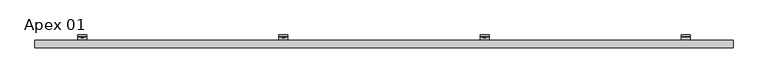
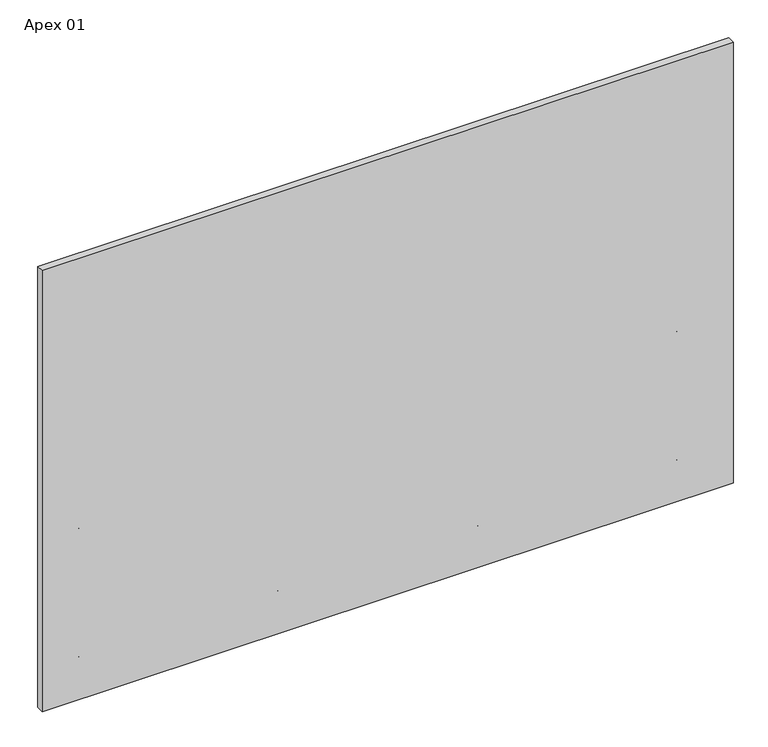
"""IFC4 building model written with IfcOpenShell, lengths in millimetres: plate geometry, Single-Panel-Perforated-Amico_Architectural : Apex 01."""

from ifc_helpers import new_model, si_unit, point, frame, frame_2d, origin, place, context, project, spatial, polyline, circle_curve, trimmed, segment, composite_curve, outline, extrude, source, transform, mapped, element, save
from ifc_brep_helpers import plane_surface, cylinder_surface, revolved_surface, advanced_brep


def apex_01_872dbe5e(model_context):
    return source(origin(), model_context, "Body", "SolidModel", [
        advanced_brep(
        [(1276.35, -47.625, 742.6471875), (1276.35, -51.2819443, 734.985155), (1276.35, -89.5163624, 708.2131273), (1276.35, -92.9330442, 711.6298091), (1276.35, -54.3526876, 738.6440656), (1276.35, -52.4002, 742.6472583), (1276.35, -52.4002, 776.8398726), (1276.35, -47.625, 776.8398726), (1314.45, -47.625, 742.6471875), (1314.45, -47.625, 776.8398726), (1314.45, -52.4002, 776.8398726), (1314.45, -52.4002, 742.6472583), (1314.45, -54.3526876, 738.6440656), (1314.45, -92.9330442, 711.6298091), (1314.45, -89.5163624, 708.2131273), (1314.45, -51.2819443, 734.985155), (1302.1411889, -52.4002, 762.7946564), (1302.1411889, -52.4002, 756.4446564), (1285.9133287, -52.4002, 756.4446564), (1285.9133287, -52.4002, 762.7946564), (1302.1411889, -47.625, 756.4446564), (1302.1411889, -47.625, 762.7946564), (1285.9133287, -47.625, 762.7946564), (1285.9133287, -47.625, 756.4446564)],
        [
            (0, 1, circle_curve(frame((1276.35, -57.4802202, 742.6471875), z_axis=(-1.0, 0.0, 0.0), x_axis=(0.0, -1.0, 0.0)), 9.8552202)),
            (1, 2),
            (2, 3),
            (3, 4),
            (4, 5, circle_curve(frame((1276.35, -57.4803246, 742.6472583), z_axis=(1.0, 0.0, 0.0), x_axis=(0.0, -1.0, 0.0)), 5.0801246)),
            (5, 6),
            (6, 7),
            (7, 0),
            (8, 9),
            (9, 10),
            (10, 11),
            (11, 12, circle_curve(frame((1314.45, -57.4803246, 742.6472583), z_axis=(-1.0, 0.0, 0.0), x_axis=(0.0, -1.0, 0.0)), 5.0801246)),
            (12, 13),
            (13, 14),
            (14, 15),
            (15, 8, circle_curve(frame((1314.45, -57.4802202, 742.6471875), z_axis=(1.0, 0.0, 0.0), x_axis=(0.0, -1.0, 0.0)), 9.8552202)),
            (4, 12),
            (11, 5),
            (10, 6),
            (16, 17, circle_curve(frame((1302.1411889, -52.4002, 759.6196564), z_axis=(0.0, 1.0, 0.0), x_axis=(0.0, 0.0, -1.0)), 3.175)),
            (17, 18),
            (18, 19, circle_curve(frame((1285.9133287, -52.4002, 759.6196564), z_axis=(0.0, 1.0, 0.0), x_axis=(0.0, 0.0, -1.0)), 3.175)),
            (19, 16),
            (9, 7),
            (8, 0),
            (20, 21, circle_curve(frame((1302.1411889, -47.625, 759.6196564), z_axis=(0.0, -1.0, 0.0), x_axis=(0.0, 0.0, -1.0)), 3.175)),
            (21, 22),
            (22, 23, circle_curve(frame((1285.9133287, -47.625, 759.6196564), z_axis=(0.0, -1.0, 0.0), x_axis=(0.0, 0.0, -1.0)), 3.175)),
            (23, 20),
            (15, 1),
            (20, 17),
            (16, 21),
            (19, 22),
            (18, 23),
            (14, 2),
            (13, 3),
        ],
        [
            plane_surface(frame((1276.35, -67.3354404, 742.6471875), z_axis=(-1.0, 0.0, 0.0), x_axis=(0.0, 0.0, 1.0))),
            plane_surface(frame((1314.45, -67.3354404, 742.6471875), z_axis=(1.0, 0.0, 0.0), x_axis=(0.0, 0.0, -1.0))),
            revolved_surface(polyline([(1314.45, -62.5604492, 742.6472583), (1276.35, -62.5604492, 742.6472583)]), (1314.45, -57.4803246, 742.6472583), (1.0, 0.0, 0.0)),
            plane_surface(frame((1276.35, -52.4002, 742.6472583), z_axis=(0.0, -1.0, 0.0), x_axis=(1.0, 0.0, 0.0))),
            plane_surface(frame((1276.35, -52.4002, 776.8398726), z_axis=(0.0, 0.0, 1.0), x_axis=(1.0, 0.0, 0.0))),
            plane_surface(frame((1276.35, -47.625, 776.8398726), z_axis=(0.0, 1.0, 6.99569853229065e-12), x_axis=(1.0, 0.0, 0.0))),
            cylinder_surface(frame((1314.45, -57.4802202, 742.6471875), z_axis=(-1.0, 0.0, 0.0), x_axis=(0.0, -1.0, 0.0)), 9.8552202),
            revolved_surface(polyline([(1302.1411889, -52.4002, 756.4446564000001), (1302.1411889, -47.625, 756.4446564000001)]), (1302.1411889, -25.6669948, 759.6196564), (0.0, -1.0, 0.0)),
            plane_surface(frame((1302.1411889, -86.677982, 762.7946564), z_axis=(0.0, 0.0, -1.0), x_axis=(0.0, 1.0, 0.0))),
            revolved_surface(polyline([(1285.9133287, -52.4002, 756.4446564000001), (1285.9133287, -47.625, 756.4446564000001)]), (1285.9133287, -25.6669948, 759.6196564), (0.0, -1.0, 0.0)),
            plane_surface(frame((1285.9133287, -86.677982, 756.4446564), z_axis=(-2.7237733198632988e-11, 0.0, 1.0), x_axis=(0.0, 1.0, 0.0))),
            plane_surface(frame((1276.35, -51.2819443, 734.985155), z_axis=(0.0, 0.5735764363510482, -0.8191520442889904), x_axis=(1.0, 0.0, 0.0))),
            plane_surface(frame((1276.35, -89.5163624, 708.2131273), z_axis=(0.0, -0.7071067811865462, -0.7071067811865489), x_axis=(1.0, 0.0, 0.0))),
            plane_surface(frame((1276.35, -92.9330442, 711.6298091), z_axis=(0.0, -0.5735764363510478, 0.8191520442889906), x_axis=(1.0, 0.0, 0.0))),
        ],
        [
            (0, [[1, 2, 3, 4, 5, 6, 7, 8]]),
            (1, [[9, 10, 11, 12, 13, 14, 15, 16]]),
            (2, [[-5, 17, -12, 18]]),
            (3, [[-6, -18, -11, 19], [20, 21, 22, 23]]),
            (4, [[-7, -19, -10, 24]]),
            (5, [[-8, -24, -9, 25], [26, 27, 28, 29]]),
            (6, [[-1, -25, -16, 30]]),
            (7, [[31, -20, 32, -26]]),
            (8, [[-32, -23, 33, -27]]),
            (9, [[-33, -22, 34, -28]]),
            (10, [[-31, -29, -34, -21]]),
            (11, [[-2, -30, -15, 35]]),
            (12, [[-3, -35, -14, 36]]),
            (13, [[-4, -36, -13, -17]]),
        ],
    ),
        extrude(outline(polyline([(759.7964995, 426.7820034), (755.450787, 429.2910017), (755.450787, 434.3089983), (759.7964995, 436.8179966), (764.1422121, 434.3089983), (764.1422121, 429.2910017), (759.7964995, 426.7820034)])), frame((0.0, -58.7607779, 0.0), z_axis=(0.0, 1.0, 0.0), x_axis=(0.0, 0.0, 1.0)), (0.0, 0.0, 1.0), 11.1357779),
        extrude(outline(composite_curve([segment(trimmed(circle_curve(frame_2d((759.8898065, 431.8)), 6.35), [point((759.8898065, 438.15))], [point((759.8898065, 425.45))], False, "CARTESIAN"), True, "CONTINUOUS"), segment(trimmed(circle_curve(frame_2d((759.8898065, 431.8)), 6.35), [point((759.8898065, 425.45))], [point((759.8898065, 438.15))], False, "CARTESIAN"), True, "CONTINUOUS")], self_intersect=False)), frame((0.0, -57.0817743, 0.0), z_axis=(0.0, 1.0, 0.0), x_axis=(0.0, 0.0, 1.0)), (0.0, 0.0, 1.0), 9.4567743),
        advanced_brep(
        [(412.75, -47.625, 742.6471875), (412.75, -51.2819443, 734.985155), (412.75, -89.5163624, 708.2131273), (412.75, -92.9330442, 711.6298091), (412.75, -54.3526876, 738.6440656), (412.75, -52.4002, 742.6472583), (412.75, -52.4002, 776.8398726), (412.75, -47.625, 776.8398726), (450.85, -47.625, 742.6471875), (450.85, -47.625, 776.8398726), (450.85, -52.4002, 776.8398726), (450.85, -52.4002, 742.6472583), (450.85, -54.3526876, 738.6440656), (450.85, -92.9330442, 711.6298091), (450.85, -89.5163624, 708.2131273), (450.85, -51.2819443, 734.985155), (438.5411889, -52.4002, 762.7946564), (438.5411889, -52.4002, 756.4446564), (422.3133287, -52.4002, 756.4446564), (422.3133287, -52.4002, 762.7946564), (438.5411889, -47.625, 756.4446564), (438.5411889, -47.625, 762.7946564), (422.3133287, -47.625, 762.7946564), (422.3133287, -47.625, 756.4446564)],
        [
            (0, 1, circle_curve(frame((412.75, -57.4802202, 742.6471875), z_axis=(-1.0, 0.0, 0.0), x_axis=(0.0, -1.0, 0.0)), 9.8552202)),
            (1, 2),
            (2, 3),
            (3, 4),
            (4, 5, circle_curve(frame((412.75, -57.4803246, 742.6472583), z_axis=(1.0, 0.0, 0.0), x_axis=(0.0, -1.0, 0.0)), 5.0801246)),
            (5, 6),
            (6, 7),
            (7, 0),
            (8, 9),
            (9, 10),
            (10, 11),
            (11, 12, circle_curve(frame((450.85, -57.4803246, 742.6472583), z_axis=(-1.0, 0.0, 0.0), x_axis=(0.0, -1.0, 0.0)), 5.0801246)),
            (12, 13),
            (13, 14),
            (14, 15),
            (15, 8, circle_curve(frame((450.85, -57.4802202, 742.6471875), z_axis=(1.0, 0.0, 0.0), x_axis=(0.0, -1.0, 0.0)), 9.8552202)),
            (4, 12),
            (11, 5),
            (10, 6),
            (16, 17, circle_curve(frame((438.5411889, -52.4002, 759.6196564), z_axis=(0.0, 1.0, 0.0), x_axis=(0.0, 0.0, -1.0)), 3.175)),
            (17, 18),
            (18, 19, circle_curve(frame((422.3133287, -52.4002, 759.6196564), z_axis=(0.0, 1.0, 0.0), x_axis=(0.0, 0.0, -1.0)), 3.175)),
            (19, 16),
            (9, 7),
            (8, 0),
            (20, 21, circle_curve(frame((438.5411889, -47.625, 759.6196564), z_axis=(0.0, -1.0, 0.0), x_axis=(0.0, 0.0, -1.0)), 3.175)),
            (21, 22),
            (22, 23, circle_curve(frame((422.3133287, -47.625, 759.6196564), z_axis=(0.0, -1.0, 0.0), x_axis=(0.0, 0.0, -1.0)), 3.175)),
            (23, 20),
            (15, 1),
            (20, 17),
            (16, 21),
            (19, 22),
            (18, 23),
            (14, 2),
            (13, 3),
        ],
        [
            plane_surface(frame((412.75, -67.3354404, 742.6471875), z_axis=(-1.0, 0.0, 0.0), x_axis=(0.0, 0.0, 1.0))),
            plane_surface(frame((450.85, -67.3354404, 742.6471875), z_axis=(1.0, 0.0, 0.0), x_axis=(0.0, 0.0, -1.0))),
            revolved_surface(polyline([(450.85, -62.5604492, 742.6472583), (412.75, -62.5604492, 742.6472583)]), (450.85, -57.4803246, 742.6472583), (1.0, 0.0, 0.0)),
            plane_surface(frame((412.75, -52.4002, 742.6472583), z_axis=(0.0, -1.0, 0.0), x_axis=(1.0, 0.0, 0.0))),
            plane_surface(frame((412.75, -52.4002, 776.8398726), z_axis=(0.0, 0.0, 1.0), x_axis=(1.0, 0.0, 0.0))),
            plane_surface(frame((412.75, -47.625, 776.8398726), z_axis=(0.0, 1.0, 6.99569853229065e-12), x_axis=(1.0, 0.0, 0.0))),
            cylinder_surface(frame((450.85, -57.4802202, 742.6471875), z_axis=(-1.0, 0.0, 0.0), x_axis=(0.0, -1.0, 0.0)), 9.8552202),
            revolved_surface(polyline([(438.5411889, -52.4002, 756.4446564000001), (438.5411889, -47.625, 756.4446564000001)]), (438.5411889, -25.6669948, 759.6196564), (0.0, -1.0, 0.0)),
            plane_surface(frame((438.5411889, -86.677982, 762.7946564), z_axis=(0.0, 0.0, -1.0), x_axis=(0.0, 1.0, 0.0))),
            revolved_surface(polyline([(422.3133287, -52.4002, 756.4446564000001), (422.3133287, -47.625, 756.4446564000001)]), (422.3133287, -25.6669948, 759.6196564), (0.0, -1.0, 0.0)),
            plane_surface(frame((422.3133287, -86.677982, 756.4446564), z_axis=(-2.7237733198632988e-11, 0.0, 1.0), x_axis=(0.0, 1.0, 0.0))),
            plane_surface(frame((412.75, -51.2819443, 734.985155), z_axis=(0.0, 0.5735764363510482, -0.8191520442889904), x_axis=(1.0, 0.0, 0.0))),
            plane_surface(frame((412.75, -89.5163624, 708.2131273), z_axis=(0.0, -0.7071067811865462, -0.7071067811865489), x_axis=(1.0, 0.0, 0.0))),
            plane_surface(frame((412.75, -92.9330442, 711.6298091), z_axis=(0.0, -0.5735764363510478, 0.8191520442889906), x_axis=(1.0, 0.0, 0.0))),
        ],
        [
            (0, [[1, 2, 3, 4, 5, 6, 7, 8]]),
            (1, [[9, 10, 11, 12, 13, 14, 15, 16]]),
            (2, [[-5, 17, -12, 18]]),
            (3, [[-6, -18, -11, 19], [20, 21, 22, 23]]),
            (4, [[-7, -19, -10, 24]]),
            (5, [[-8, -24, -9, 25], [26, 27, 28, 29]]),
            (6, [[-1, -25, -16, 30]]),
            (7, [[31, -20, 32, -26]]),
            (8, [[-32, -23, 33, -27]]),
            (9, [[-33, -22, 34, -28]]),
            (10, [[-31, -29, -34, -21]]),
            (11, [[-2, -30, -15, 35]]),
            (12, [[-3, -35, -14, 36]]),
            (13, [[-4, -36, -13, -17]]),
        ],
    ),
        extrude(outline(polyline([(759.7964995, -436.8179966), (755.450787, -434.3089983), (755.450787, -429.2910017), (759.7964995, -426.7820034), (764.1422121, -429.2910017), (764.1422121, -434.3089983), (759.7964995, -436.8179966)])), frame((0.0, -58.7607779, 0.0), z_axis=(0.0, 1.0, 0.0), x_axis=(0.0, 0.0, 1.0)), (0.0, 0.0, 1.0), 11.1357779),
        extrude(outline(composite_curve([segment(trimmed(circle_curve(frame_2d((759.8898065, -431.8)), 6.35), [point((759.8898065, -425.45))], [point((759.8898065, -438.15))], False, "CARTESIAN"), True, "CONTINUOUS"), segment(trimmed(circle_curve(frame_2d((759.8898065, -431.8)), 6.35), [point((759.8898065, -438.15))], [point((759.8898065, -425.45))], False, "CARTESIAN"), True, "CONTINUOUS")], self_intersect=False)), frame((0.0, -57.0817743, 0.0), z_axis=(0.0, 1.0, 0.0), x_axis=(0.0, 0.0, 1.0)), (0.0, 0.0, 1.0), 9.4567743),
        advanced_brep(
        [(-450.85, -47.625, 742.6471875), (-450.85, -51.2819443, 734.985155), (-450.85, -89.5163624, 708.2131273), (-450.85, -92.9330442, 711.6298091), (-450.85, -54.3526876, 738.6440656), (-450.85, -52.4002, 742.6472583), (-450.85, -52.4002, 776.8398726), (-450.85, -47.625, 776.8398726), (-412.75, -47.625, 742.6471875), (-412.75, -47.625, 776.8398726), (-412.75, -52.4002, 776.8398726), (-412.75, -52.4002, 742.6472583), (-412.75, -54.3526876, 738.6440656), (-412.75, -92.9330442, 711.6298091), (-412.75, -89.5163624, 708.2131273), (-412.75, -51.2819443, 734.985155), (-425.0588111, -52.4002, 762.7946564), (-425.0588111, -52.4002, 756.4446564), (-441.2866713, -52.4002, 756.4446564), (-441.2866713, -52.4002, 762.7946564), (-425.0588111, -47.625, 756.4446564), (-425.0588111, -47.625, 762.7946564), (-441.2866713, -47.625, 762.7946564), (-441.2866713, -47.625, 756.4446564)],
        [
            (0, 1, circle_curve(frame((-450.85, -57.4802202, 742.6471875), z_axis=(-1.0, 0.0, 0.0), x_axis=(0.0, -1.0, 0.0)), 9.8552202)),
            (1, 2),
            (2, 3),
            (3, 4),
            (4, 5, circle_curve(frame((-450.85, -57.4803246, 742.6472583), z_axis=(1.0, 0.0, 0.0), x_axis=(0.0, -1.0, 0.0)), 5.0801246)),
            (5, 6),
            (6, 7),
            (7, 0),
            (8, 9),
            (9, 10),
            (10, 11),
            (11, 12, circle_curve(frame((-412.75, -57.4803246, 742.6472583), z_axis=(-1.0, 0.0, 0.0), x_axis=(0.0, -1.0, 0.0)), 5.0801246)),
            (12, 13),
            (13, 14),
            (14, 15),
            (15, 8, circle_curve(frame((-412.75, -57.4802202, 742.6471875), z_axis=(1.0, 0.0, 0.0), x_axis=(0.0, -1.0, 0.0)), 9.8552202)),
            (4, 12),
            (11, 5),
            (10, 6),
            (16, 17, circle_curve(frame((-425.0588111, -52.4002, 759.6196564), z_axis=(0.0, 1.0, 0.0), x_axis=(0.0, 0.0, -1.0)), 3.175)),
            (17, 18),
            (18, 19, circle_curve(frame((-441.2866713, -52.4002, 759.6196564), z_axis=(0.0, 1.0, 0.0), x_axis=(0.0, 0.0, -1.0)), 3.175)),
            (19, 16),
            (9, 7),
            (8, 0),
            (20, 21, circle_curve(frame((-425.0588111, -47.625, 759.6196564), z_axis=(0.0, -1.0, 0.0), x_axis=(0.0, 0.0, -1.0)), 3.175)),
            (21, 22),
            (22, 23, circle_curve(frame((-441.2866713, -47.625, 759.6196564), z_axis=(0.0, -1.0, 0.0), x_axis=(0.0, 0.0, -1.0)), 3.175)),
            (23, 20),
            (15, 1),
            (20, 17),
            (16, 21),
            (19, 22),
            (18, 23),
            (14, 2),
            (13, 3),
        ],
        [
            plane_surface(frame((-450.85, -67.3354404, 742.6471875), z_axis=(-1.0, 0.0, 0.0), x_axis=(0.0, 0.0, 1.0))),
            plane_surface(frame((-412.75, -67.3354404, 742.6471875), z_axis=(1.0, 0.0, 0.0), x_axis=(0.0, 0.0, -1.0))),
            revolved_surface(polyline([(-412.75, -62.5604492, 742.6472583), (-450.85, -62.5604492, 742.6472583)]), (-412.75, -57.4803246, 742.6472583), (1.0, 0.0, 0.0)),
            plane_surface(frame((-450.85, -52.4002, 742.6472583), z_axis=(0.0, -1.0, 0.0), x_axis=(1.0, 0.0, 0.0))),
            plane_surface(frame((-450.85, -52.4002, 776.8398726), z_axis=(0.0, 0.0, 1.0), x_axis=(1.0, 0.0, 0.0))),
            plane_surface(frame((-450.85, -47.625, 776.8398726), z_axis=(0.0, 1.0, 6.99569853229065e-12), x_axis=(1.0, 0.0, 0.0))),
            cylinder_surface(frame((-412.75, -57.4802202, 742.6471875), z_axis=(-1.0, 0.0, 0.0), x_axis=(0.0, -1.0, 0.0)), 9.8552202),
            revolved_surface(polyline([(-425.0588111, -52.4002, 756.4446564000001), (-425.0588111, -47.625, 756.4446564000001)]), (-425.0588111, -25.6669948, 759.6196564), (0.0, -1.0, 0.0)),
            plane_surface(frame((-425.0588111, -86.677982, 762.7946564), z_axis=(0.0, 0.0, -1.0), x_axis=(0.0, 1.0, 0.0))),
            revolved_surface(polyline([(-441.2866713, -52.4002, 756.4446564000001), (-441.2866713, -47.625, 756.4446564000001)]), (-441.2866713, -25.6669948, 759.6196564), (0.0, -1.0, 0.0)),
            plane_surface(frame((-441.2866713, -86.677982, 756.4446564), z_axis=(-2.7237733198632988e-11, 0.0, 1.0), x_axis=(0.0, 1.0, 0.0))),
            plane_surface(frame((-450.85, -51.2819443, 734.985155), z_axis=(0.0, 0.5735764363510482, -0.8191520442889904), x_axis=(1.0, 0.0, 0.0))),
            plane_surface(frame((-450.85, -89.5163624, 708.2131273), z_axis=(0.0, -0.7071067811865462, -0.7071067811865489), x_axis=(1.0, 0.0, 0.0))),
            plane_surface(frame((-450.85, -92.9330442, 711.6298091), z_axis=(0.0, -0.5735764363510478, 0.8191520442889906), x_axis=(1.0, 0.0, 0.0))),
        ],
        [
            (0, [[1, 2, 3, 4, 5, 6, 7, 8]]),
            (1, [[9, 10, 11, 12, 13, 14, 15, 16]]),
            (2, [[-5, 17, -12, 18]]),
            (3, [[-6, -18, -11, 19], [20, 21, 22, 23]]),
            (4, [[-7, -19, -10, 24]]),
            (5, [[-8, -24, -9, 25], [26, 27, 28, 29]]),
            (6, [[-1, -25, -16, 30]]),
            (7, [[31, -20, 32, -26]]),
            (8, [[-32, -23, 33, -27]]),
            (9, [[-33, -22, 34, -28]]),
            (10, [[-31, -29, -34, -21]]),
            (11, [[-2, -30, -15, 35]]),
            (12, [[-3, -35, -14, 36]]),
            (13, [[-4, -36, -13, -17]]),
        ],
    ),
        extrude(outline(polyline([(759.7964995, -1300.4179966), (755.450787, -1297.9089983), (755.450787, -1292.8910017), (759.7964995, -1290.3820034), (764.1422121, -1292.8910017), (764.1422121, -1297.9089983), (759.7964995, -1300.4179966)])), frame((0.0, -58.7607779, 0.0), z_axis=(0.0, 1.0, 0.0), x_axis=(0.0, 0.0, 1.0)), (0.0, 0.0, 1.0), 11.1357779),
        extrude(outline(composite_curve([segment(trimmed(circle_curve(frame_2d((759.8898065, -1295.4)), 6.35), [point((759.8898065, -1289.05))], [point((759.8898065, -1301.75))], False, "CARTESIAN"), True, "CONTINUOUS"), segment(trimmed(circle_curve(frame_2d((759.8898065, -1295.4)), 6.35), [point((759.8898065, -1301.75))], [point((759.8898065, -1289.05))], False, "CARTESIAN"), True, "CONTINUOUS")], self_intersect=False)), frame((0.0, -57.0817743, 0.0), z_axis=(0.0, 1.0, 0.0), x_axis=(0.0, 0.0, 1.0)), (0.0, 0.0, 1.0), 9.4567743),
        advanced_brep(
        [(-1314.45, -47.625, 742.6471875), (-1314.45, -51.2819443, 734.985155), (-1314.45, -89.5163624, 708.2131273), (-1314.45, -92.9330442, 711.6298091), (-1314.45, -54.3526876, 738.6440656), (-1314.45, -52.4002, 742.6472583), (-1314.45, -52.4002, 776.8398726), (-1314.45, -47.625, 776.8398726), (-1276.35, -47.625, 742.6471875), (-1276.35, -47.625, 776.8398726), (-1276.35, -52.4002, 776.8398726), (-1276.35, -52.4002, 742.6472583), (-1276.35, -54.3526876, 738.6440656), (-1276.35, -92.9330442, 711.6298091), (-1276.35, -89.5163624, 708.2131273), (-1276.35, -51.2819443, 734.985155), (-1288.6588111, -52.4002, 762.7946564), (-1288.6588111, -52.4002, 756.4446564), (-1304.8866713, -52.4002, 756.4446564), (-1304.8866713, -52.4002, 762.7946564), (-1288.6588111, -47.625, 756.4446564), (-1288.6588111, -47.625, 762.7946564), (-1304.8866713, -47.625, 762.7946564), (-1304.8866713, -47.625, 756.4446564)],
        [
            (0, 1, circle_curve(frame((-1314.45, -57.4802202, 742.6471875), z_axis=(-1.0, 0.0, 0.0), x_axis=(0.0, -1.0, 0.0)), 9.8552202)),
            (1, 2),
            (2, 3),
            (3, 4),
            (4, 5, circle_curve(frame((-1314.45, -57.4803246, 742.6472583), z_axis=(1.0, 0.0, 0.0), x_axis=(0.0, -1.0, 0.0)), 5.0801246)),
            (5, 6),
            (6, 7),
            (7, 0),
            (8, 9),
            (9, 10),
            (10, 11),
            (11, 12, circle_curve(frame((-1276.35, -57.4803246, 742.6472583), z_axis=(-1.0, 0.0, 0.0), x_axis=(0.0, -1.0, 0.0)), 5.0801246)),
            (12, 13),
            (13, 14),
            (14, 15),
            (15, 8, circle_curve(frame((-1276.35, -57.4802202, 742.6471875), z_axis=(1.0, 0.0, 0.0), x_axis=(0.0, -1.0, 0.0)), 9.8552202)),
            (4, 12),
            (11, 5),
            (10, 6),
            (16, 17, circle_curve(frame((-1288.6588111, -52.4002, 759.6196564), z_axis=(0.0, 1.0, 0.0), x_axis=(0.0, 0.0, -1.0)), 3.175)),
            (17, 18),
            (18, 19, circle_curve(frame((-1304.8866713, -52.4002, 759.6196564), z_axis=(0.0, 1.0, 0.0), x_axis=(0.0, 0.0, -1.0)), 3.175)),
            (19, 16),
            (9, 7),
            (8, 0),
            (20, 21, circle_curve(frame((-1288.6588111, -47.625, 759.6196564), z_axis=(0.0, -1.0, 0.0), x_axis=(0.0, 0.0, -1.0)), 3.175)),
            (21, 22),
            (22, 23, circle_curve(frame((-1304.8866713, -47.625, 759.6196564), z_axis=(0.0, -1.0, 0.0), x_axis=(0.0, 0.0, -1.0)), 3.175)),
            (23, 20),
            (15, 1),
            (20, 17),
            (16, 21),
            (19, 22),
            (18, 23),
            (14, 2),
            (13, 3),
        ],
        [
            plane_surface(frame((-1314.45, -67.3354404, 742.6471875), z_axis=(-1.0, 0.0, 0.0), x_axis=(0.0, 0.0, 1.0))),
            plane_surface(frame((-1276.35, -67.3354404, 742.6471875), z_axis=(1.0, 0.0, 0.0), x_axis=(0.0, 0.0, -1.0))),
            revolved_surface(polyline([(-1276.35, -62.5604492, 742.6472583), (-1314.45, -62.5604492, 742.6472583)]), (-1276.35, -57.4803246, 742.6472583), (1.0, 0.0, 0.0)),
            plane_surface(frame((-1314.45, -52.4002, 742.6472583), z_axis=(0.0, -1.0, 0.0), x_axis=(1.0, 0.0, 0.0))),
            plane_surface(frame((-1314.45, -52.4002, 776.8398726), z_axis=(0.0, 0.0, 1.0), x_axis=(1.0, 0.0, 0.0))),
            plane_surface(frame((-1314.45, -47.625, 776.8398726), z_axis=(0.0, 1.0, 6.99569853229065e-12), x_axis=(1.0, 0.0, 0.0))),
            cylinder_surface(frame((-1276.35, -57.4802202, 742.6471875), z_axis=(-1.0, 0.0, 0.0), x_axis=(0.0, -1.0, 0.0)), 9.8552202),
            revolved_surface(polyline([(-1288.6588111, -52.4002, 756.4446564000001), (-1288.6588111, -47.625, 756.4446564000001)]), (-1288.6588111, -25.6669948, 759.6196564), (0.0, -1.0, 0.0)),
            plane_surface(frame((-1288.6588111, -86.677982, 762.7946564), z_axis=(0.0, 0.0, -1.0), x_axis=(0.0, 1.0, 0.0))),
            revolved_surface(polyline([(-1304.8866713, -52.4002, 756.4446564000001), (-1304.8866713, -47.625, 756.4446564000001)]), (-1304.8866713, -25.6669948, 759.6196564), (0.0, -1.0, 0.0)),
            plane_surface(frame((-1304.8866713, -86.677982, 756.4446564), z_axis=(-2.7237733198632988e-11, 0.0, 1.0), x_axis=(0.0, 1.0, 0.0))),
            plane_surface(frame((-1314.45, -51.2819443, 734.985155), z_axis=(0.0, 0.5735764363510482, -0.8191520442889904), x_axis=(1.0, 0.0, 0.0))),
            plane_surface(frame((-1314.45, -89.5163624, 708.2131273), z_axis=(0.0, -0.7071067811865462, -0.7071067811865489), x_axis=(1.0, 0.0, 0.0))),
            plane_surface(frame((-1314.45, -92.9330442, 711.6298091), z_axis=(0.0, -0.5735764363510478, 0.8191520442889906), x_axis=(1.0, 0.0, 0.0))),
        ],
        [
            (0, [[1, 2, 3, 4, 5, 6, 7, 8]]),
            (1, [[9, 10, 11, 12, 13, 14, 15, 16]]),
            (2, [[-5, 17, -12, 18]]),
            (3, [[-6, -18, -11, 19], [20, 21, 22, 23]]),
            (4, [[-7, -19, -10, 24]]),
            (5, [[-8, -24, -9, 25], [26, 27, 28, 29]]),
            (6, [[-1, -25, -16, 30]]),
            (7, [[31, -20, 32, -26]]),
            (8, [[-32, -23, 33, -27]]),
            (9, [[-33, -22, 34, -28]]),
            (10, [[-31, -29, -34, -21]]),
            (11, [[-2, -30, -15, 35]]),
            (12, [[-3, -35, -14, 36]]),
            (13, [[-4, -36, -13, -17]]),
        ],
    ),
        extrude(outline(polyline([(169.8795323, 1290.3820034), (165.5338197, 1292.8910017), (165.5338197, 1297.9089983), (169.8795323, 1300.4179966), (174.2252448, 1297.9089983), (174.2252448, 1292.8910017), (169.8795323, 1290.3820034)])), frame((0.0, -58.7607779, 0.0), z_axis=(0.0, 1.0, 0.0), x_axis=(0.0, 0.0, 1.0)), (0.0, 0.0, 1.0), 11.1357779),
        extrude(outline(composite_curve([segment(trimmed(circle_curve(frame_2d((169.9728392, 1295.4)), 6.35), [point((169.9728392, 1301.75))], [point((169.9728392, 1289.05))], False, "CARTESIAN"), True, "CONTINUOUS"), segment(trimmed(circle_curve(frame_2d((169.9728392, 1295.4)), 6.35), [point((169.9728392, 1289.05))], [point((169.9728392, 1301.75))], False, "CARTESIAN"), True, "CONTINUOUS")], self_intersect=False)), frame((0.0, -57.0817743, 0.0), z_axis=(0.0, 1.0, 0.0), x_axis=(0.0, 0.0, 1.0)), (0.0, 0.0, 1.0), 9.4567743),
        advanced_brep(
        [(1276.35, -47.625, 152.7302202), (1276.35, -51.2819443, 145.0681877), (1276.35, -89.5163624, 118.29616), (1276.35, -92.9330442, 121.7128418), (1276.35, -54.3526876, 148.7270983), (1276.35, -52.4002, 152.7302911), (1276.35, -52.4002, 186.9229053), (1276.35, -47.625, 186.9229053), (1314.45, -47.625, 152.7302202), (1314.45, -47.625, 186.9229053), (1314.45, -52.4002, 186.9229053), (1314.45, -52.4002, 152.7302911), (1314.45, -54.3526876, 148.7270983), (1314.45, -92.9330442, 121.7128418), (1314.45, -89.5163624, 118.29616), (1314.45, -51.2819443, 145.0681877), (1302.1411889, -52.4002, 172.8776891), (1302.1411889, -52.4002, 166.5276891), (1285.9133287, -52.4002, 166.5276891), (1285.9133287, -52.4002, 172.8776891), (1302.1411889, -47.625, 166.5276891), (1302.1411889, -47.625, 172.8776891), (1285.9133287, -47.625, 172.8776891), (1285.9133287, -47.625, 166.5276891)],
        [
            (0, 1, circle_curve(frame((1276.35, -57.4802202, 152.7302202), z_axis=(-1.0, 0.0, 0.0), x_axis=(0.0, -1.0, 0.0)), 9.8552202)),
            (1, 2),
            (2, 3),
            (3, 4),
            (4, 5, circle_curve(frame((1276.35, -57.4803246, 152.7302911), z_axis=(1.0, 0.0, 0.0), x_axis=(0.0, -1.0, 0.0)), 5.0801246)),
            (5, 6),
            (6, 7),
            (7, 0),
            (8, 9),
            (9, 10),
            (10, 11),
            (11, 12, circle_curve(frame((1314.45, -57.4803246, 152.7302911), z_axis=(-1.0, 0.0, 0.0), x_axis=(0.0, -1.0, 0.0)), 5.0801246)),
            (12, 13),
            (13, 14),
            (14, 15),
            (15, 8, circle_curve(frame((1314.45, -57.4802202, 152.7302202), z_axis=(1.0, 0.0, 0.0), x_axis=(0.0, -1.0, 0.0)), 9.8552202)),
            (4, 12),
            (11, 5),
            (10, 6),
            (16, 17, circle_curve(frame((1302.1411889, -52.4002, 169.7026891), z_axis=(0.0, 1.0, 0.0), x_axis=(0.0, 0.0, -1.0)), 3.175)),
            (17, 18),
            (18, 19, circle_curve(frame((1285.9133287, -52.4002, 169.7026891), z_axis=(0.0, 1.0, 0.0), x_axis=(0.0, 0.0, -1.0)), 3.175)),
            (19, 16),
            (9, 7),
            (8, 0),
            (20, 21, circle_curve(frame((1302.1411889, -47.625, 169.7026891), z_axis=(0.0, -1.0, 0.0), x_axis=(0.0, 0.0, -1.0)), 3.175)),
            (21, 22),
            (22, 23, circle_curve(frame((1285.9133287, -47.625, 169.7026891), z_axis=(0.0, -1.0, 0.0), x_axis=(0.0, 0.0, -1.0)), 3.175)),
            (23, 20),
            (15, 1),
            (20, 17),
            (16, 21),
            (19, 22),
            (18, 23),
            (14, 2),
            (13, 3),
        ],
        [
            plane_surface(frame((1276.35, -67.3354404, 152.7302202), z_axis=(-1.0, 0.0, 0.0), x_axis=(0.0, 0.0, 1.0))),
            plane_surface(frame((1314.45, -67.3354404, 152.7302202), z_axis=(1.0, 0.0, 0.0), x_axis=(0.0, 0.0, -1.0))),
            revolved_surface(polyline([(1314.45, -62.5604492, 152.7302911), (1276.35, -62.5604492, 152.7302911)]), (1314.45, -57.4803246, 152.7302911), (1.0, 0.0, 0.0)),
            plane_surface(frame((1276.35, -52.4002, 152.7302911), z_axis=(0.0, -1.0, 0.0), x_axis=(1.0, 0.0, 0.0))),
            plane_surface(frame((1276.35, -52.4002, 186.9229053), z_axis=(0.0, 0.0, 1.0), x_axis=(1.0, 0.0, 0.0))),
            plane_surface(frame((1276.35, -47.625, 186.9229053), z_axis=(0.0, 1.0, 6.99569853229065e-12), x_axis=(1.0, 0.0, 0.0))),
            cylinder_surface(frame((1314.45, -57.4802202, 152.7302202), z_axis=(-1.0, 0.0, 0.0), x_axis=(0.0, -1.0, 0.0)), 9.8552202),
            revolved_surface(polyline([(1302.1411889, -52.4002, 166.52768909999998), (1302.1411889, -47.625, 166.52768909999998)]), (1302.1411889, -25.6669948, 169.7026891), (0.0, -1.0, 0.0)),
            plane_surface(frame((1302.1411889, -86.677982, 172.8776891), z_axis=(0.0, 0.0, -1.0), x_axis=(0.0, 1.0, 0.0))),
            revolved_surface(polyline([(1285.9133287, -52.4002, 166.52768909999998), (1285.9133287, -47.625, 166.52768909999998)]), (1285.9133287, -25.6669948, 169.7026891), (0.0, -1.0, 0.0)),
            plane_surface(frame((1285.9133287, -86.677982, 166.5276891), z_axis=(-2.723774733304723e-11, 0.0, 1.0), x_axis=(0.0, 1.0, 0.0))),
            plane_surface(frame((1276.35, -51.2819443, 145.0681877), z_axis=(0.0, 0.5735764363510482, -0.8191520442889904), x_axis=(1.0, 0.0, 0.0))),
            plane_surface(frame((1276.35, -89.5163624, 118.29616), z_axis=(0.0, -0.7071067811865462, -0.7071067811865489), x_axis=(1.0, 0.0, 0.0))),
            plane_surface(frame((1276.35, -92.9330442, 121.7128418), z_axis=(0.0, -0.5735764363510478, 0.8191520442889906), x_axis=(1.0, 0.0, 0.0))),
        ],
        [
            (0, [[1, 2, 3, 4, 5, 6, 7, 8]]),
            (1, [[9, 10, 11, 12, 13, 14, 15, 16]]),
            (2, [[-5, 17, -12, 18]]),
            (3, [[-6, -18, -11, 19], [20, 21, 22, 23]]),
            (4, [[-7, -19, -10, 24]]),
            (5, [[-8, -24, -9, 25], [26, 27, 28, 29]]),
            (6, [[-1, -25, -16, 30]]),
            (7, [[31, -20, 32, -26]]),
            (8, [[-32, -23, 33, -27]]),
            (9, [[-33, -22, 34, -28]]),
            (10, [[-31, -29, -34, -21]]),
            (11, [[-2, -30, -15, 35]]),
            (12, [[-3, -35, -14, 36]]),
            (13, [[-4, -36, -13, -17]]),
        ],
    ),
        extrude(outline(polyline([(169.8795323, 426.7820034), (165.5338197, 429.2910017), (165.5338197, 434.3089983), (169.8795323, 436.8179966), (174.2252448, 434.3089983), (174.2252448, 429.2910017), (169.8795323, 426.7820034)])), frame((0.0, -58.7607779, 0.0), z_axis=(0.0, 1.0, 0.0), x_axis=(0.0, 0.0, 1.0)), (0.0, 0.0, 1.0), 11.1357779),
        extrude(outline(composite_curve([segment(trimmed(circle_curve(frame_2d((169.9728392, 431.8)), 6.35), [point((169.9728392, 438.15))], [point((169.9728392, 425.45))], False, "CARTESIAN"), True, "CONTINUOUS"), segment(trimmed(circle_curve(frame_2d((169.9728392, 431.8)), 6.35), [point((169.9728392, 425.45))], [point((169.9728392, 438.15))], False, "CARTESIAN"), True, "CONTINUOUS")], self_intersect=False)), frame((0.0, -57.0817743, 0.0), z_axis=(0.0, 1.0, 0.0), x_axis=(0.0, 0.0, 1.0)), (0.0, 0.0, 1.0), 9.4567743),
        advanced_brep(
        [(412.75, -47.625, 152.7302202), (412.75, -51.2819443, 145.0681877), (412.75, -89.5163624, 118.29616), (412.75, -92.9330442, 121.7128418), (412.75, -54.3526876, 148.7270983), (412.75, -52.4002, 152.7302911), (412.75, -52.4002, 186.9229053), (412.75, -47.625, 186.9229053), (450.85, -47.625, 152.7302202), (450.85, -47.625, 186.9229053), (450.85, -52.4002, 186.9229053), (450.85, -52.4002, 152.7302911), (450.85, -54.3526876, 148.7270983), (450.85, -92.9330442, 121.7128418), (450.85, -89.5163624, 118.29616), (450.85, -51.2819443, 145.0681877), (438.5411889, -52.4002, 172.8776891), (438.5411889, -52.4002, 166.5276891), (422.3133287, -52.4002, 166.5276891), (422.3133287, -52.4002, 172.8776891), (438.5411889, -47.625, 166.5276891), (438.5411889, -47.625, 172.8776891), (422.3133287, -47.625, 172.8776891), (422.3133287, -47.625, 166.5276891)],
        [
            (0, 1, circle_curve(frame((412.75, -57.4802202, 152.7302202), z_axis=(-1.0, 0.0, 0.0), x_axis=(0.0, -1.0, 0.0)), 9.8552202)),
            (1, 2),
            (2, 3),
            (3, 4),
            (4, 5, circle_curve(frame((412.75, -57.4803246, 152.7302911), z_axis=(1.0, 0.0, 0.0), x_axis=(0.0, -1.0, 0.0)), 5.0801246)),
            (5, 6),
            (6, 7),
            (7, 0),
            (8, 9),
            (9, 10),
            (10, 11),
            (11, 12, circle_curve(frame((450.85, -57.4803246, 152.7302911), z_axis=(-1.0, 0.0, 0.0), x_axis=(0.0, -1.0, 0.0)), 5.0801246)),
            (12, 13),
            (13, 14),
            (14, 15),
            (15, 8, circle_curve(frame((450.85, -57.4802202, 152.7302202), z_axis=(1.0, 0.0, 0.0), x_axis=(0.0, -1.0, 0.0)), 9.8552202)),
            (4, 12),
            (11, 5),
            (10, 6),
            (16, 17, circle_curve(frame((438.5411889, -52.4002, 169.7026891), z_axis=(0.0, 1.0, 0.0), x_axis=(0.0, 0.0, -1.0)), 3.175)),
            (17, 18),
            (18, 19, circle_curve(frame((422.3133287, -52.4002, 169.7026891), z_axis=(0.0, 1.0, 0.0), x_axis=(0.0, 0.0, -1.0)), 3.175)),
            (19, 16),
            (9, 7),
            (8, 0),
            (20, 21, circle_curve(frame((438.5411889, -47.625, 169.7026891), z_axis=(0.0, -1.0, 0.0), x_axis=(0.0, 0.0, -1.0)), 3.175)),
            (21, 22),
            (22, 23, circle_curve(frame((422.3133287, -47.625, 169.7026891), z_axis=(0.0, -1.0, 0.0), x_axis=(0.0, 0.0, -1.0)), 3.175)),
            (23, 20),
            (15, 1),
            (20, 17),
            (16, 21),
            (19, 22),
            (18, 23),
            (14, 2),
            (13, 3),
        ],
        [
            plane_surface(frame((412.75, -67.3354404, 152.7302202), z_axis=(-1.0, 0.0, 0.0), x_axis=(0.0, 0.0, 1.0))),
            plane_surface(frame((450.85, -67.3354404, 152.7302202), z_axis=(1.0, 0.0, 0.0), x_axis=(0.0, 0.0, -1.0))),
            revolved_surface(polyline([(450.85, -62.5604492, 152.7302911), (412.75, -62.5604492, 152.7302911)]), (450.85, -57.4803246, 152.7302911), (1.0, 0.0, 0.0)),
            plane_surface(frame((412.75, -52.4002, 152.7302911), z_axis=(0.0, -1.0, 0.0), x_axis=(1.0, 0.0, 0.0))),
            plane_surface(frame((412.75, -52.4002, 186.9229053), z_axis=(0.0, 0.0, 1.0), x_axis=(1.0, 0.0, 0.0))),
            plane_surface(frame((412.75, -47.625, 186.9229053), z_axis=(0.0, 1.0, 6.99569853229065e-12), x_axis=(1.0, 0.0, 0.0))),
            cylinder_surface(frame((450.85, -57.4802202, 152.7302202), z_axis=(-1.0, 0.0, 0.0), x_axis=(0.0, -1.0, 0.0)), 9.8552202),
            revolved_surface(polyline([(438.5411889, -52.4002, 166.52768909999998), (438.5411889, -47.625, 166.52768909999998)]), (438.5411889, -25.6669948, 169.7026891), (0.0, -1.0, 0.0)),
            plane_surface(frame((438.5411889, -86.677982, 172.8776891), z_axis=(0.0, 0.0, -1.0), x_axis=(0.0, 1.0, 0.0))),
            revolved_surface(polyline([(422.3133287, -52.4002, 166.52768909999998), (422.3133287, -47.625, 166.52768909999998)]), (422.3133287, -25.6669948, 169.7026891), (0.0, -1.0, 0.0)),
            plane_surface(frame((422.3133287, -86.677982, 166.5276891), z_axis=(-2.723774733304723e-11, 0.0, 1.0), x_axis=(0.0, 1.0, 0.0))),
            plane_surface(frame((412.75, -51.2819443, 145.0681877), z_axis=(0.0, 0.5735764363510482, -0.8191520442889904), x_axis=(1.0, 0.0, 0.0))),
            plane_surface(frame((412.75, -89.5163624, 118.29616), z_axis=(0.0, -0.7071067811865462, -0.7071067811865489), x_axis=(1.0, 0.0, 0.0))),
            plane_surface(frame((412.75, -92.9330442, 121.7128418), z_axis=(0.0, -0.5735764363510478, 0.8191520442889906), x_axis=(1.0, 0.0, 0.0))),
        ],
        [
            (0, [[1, 2, 3, 4, 5, 6, 7, 8]]),
            (1, [[9, 10, 11, 12, 13, 14, 15, 16]]),
            (2, [[-5, 17, -12, 18]]),
            (3, [[-6, -18, -11, 19], [20, 21, 22, 23]]),
            (4, [[-7, -19, -10, 24]]),
            (5, [[-8, -24, -9, 25], [26, 27, 28, 29]]),
            (6, [[-1, -25, -16, 30]]),
            (7, [[31, -20, 32, -26]]),
            (8, [[-32, -23, 33, -27]]),
            (9, [[-33, -22, 34, -28]]),
            (10, [[-31, -29, -34, -21]]),
            (11, [[-2, -30, -15, 35]]),
            (12, [[-3, -35, -14, 36]]),
            (13, [[-4, -36, -13, -17]]),
        ],
    ),
        extrude(outline(polyline([(169.8795323, -436.8179966), (165.5338197, -434.3089983), (165.5338197, -429.2910017), (169.8795323, -426.7820034), (174.2252448, -429.2910017), (174.2252448, -434.3089983), (169.8795323, -436.8179966)])), frame((0.0, -58.7607779, 0.0), z_axis=(0.0, 1.0, 0.0), x_axis=(0.0, 0.0, 1.0)), (0.0, 0.0, 1.0), 11.1357779),
        extrude(outline(composite_curve([segment(trimmed(circle_curve(frame_2d((169.9728392, -431.8)), 6.35), [point((169.9728392, -425.45))], [point((169.9728392, -438.15))], False, "CARTESIAN"), True, "CONTINUOUS"), segment(trimmed(circle_curve(frame_2d((169.9728392, -431.8)), 6.35), [point((169.9728392, -438.15))], [point((169.9728392, -425.45))], False, "CARTESIAN"), True, "CONTINUOUS")], self_intersect=False)), frame((0.0, -57.0817743, 0.0), z_axis=(0.0, 1.0, 0.0), x_axis=(0.0, 0.0, 1.0)), (0.0, 0.0, 1.0), 9.4567743),
        advanced_brep(
        [(-450.85, -47.625, 152.7302202), (-450.85, -51.2819443, 145.0681877), (-450.85, -89.5163624, 118.29616), (-450.85, -92.9330442, 121.7128418), (-450.85, -54.3526876, 148.7270983), (-450.85, -52.4002, 152.7302911), (-450.85, -52.4002, 186.9229053), (-450.85, -47.625, 186.9229053), (-412.75, -47.625, 152.7302202), (-412.75, -47.625, 186.9229053), (-412.75, -52.4002, 186.9229053), (-412.75, -52.4002, 152.7302911), (-412.75, -54.3526876, 148.7270983), (-412.75, -92.9330442, 121.7128418), (-412.75, -89.5163624, 118.29616), (-412.75, -51.2819443, 145.0681877), (-425.0588111, -52.4002, 172.8776891), (-425.0588111, -52.4002, 166.5276891), (-441.2866713, -52.4002, 166.5276891), (-441.2866713, -52.4002, 172.8776891), (-425.0588111, -47.625, 166.5276891), (-425.0588111, -47.625, 172.8776891), (-441.2866713, -47.625, 172.8776891), (-441.2866713, -47.625, 166.5276891)],
        [
            (0, 1, circle_curve(frame((-450.85, -57.4802202, 152.7302202), z_axis=(-1.0, 0.0, 0.0), x_axis=(0.0, -1.0, 0.0)), 9.8552202)),
            (1, 2),
            (2, 3),
            (3, 4),
            (4, 5, circle_curve(frame((-450.85, -57.4803246, 152.7302911), z_axis=(1.0, 0.0, 0.0), x_axis=(0.0, -1.0, 0.0)), 5.0801246)),
            (5, 6),
            (6, 7),
            (7, 0),
            (8, 9),
            (9, 10),
            (10, 11),
            (11, 12, circle_curve(frame((-412.75, -57.4803246, 152.7302911), z_axis=(-1.0, 0.0, 0.0), x_axis=(0.0, -1.0, 0.0)), 5.0801246)),
            (12, 13),
            (13, 14),
            (14, 15),
            (15, 8, circle_curve(frame((-412.75, -57.4802202, 152.7302202), z_axis=(1.0, 0.0, 0.0), x_axis=(0.0, -1.0, 0.0)), 9.8552202)),
            (4, 12),
            (11, 5),
            (10, 6),
            (16, 17, circle_curve(frame((-425.0588111, -52.4002, 169.7026891), z_axis=(0.0, 1.0, 0.0), x_axis=(0.0, 0.0, -1.0)), 3.175)),
            (17, 18),
            (18, 19, circle_curve(frame((-441.2866713, -52.4002, 169.7026891), z_axis=(0.0, 1.0, 0.0), x_axis=(0.0, 0.0, -1.0)), 3.175)),
            (19, 16),
            (9, 7),
            (8, 0),
            (20, 21, circle_curve(frame((-425.0588111, -47.625, 169.7026891), z_axis=(0.0, -1.0, 0.0), x_axis=(0.0, 0.0, -1.0)), 3.175)),
            (21, 22),
            (22, 23, circle_curve(frame((-441.2866713, -47.625, 169.7026891), z_axis=(0.0, -1.0, 0.0), x_axis=(0.0, 0.0, -1.0)), 3.175)),
            (23, 20),
            (15, 1),
            (20, 17),
            (16, 21),
            (19, 22),
            (18, 23),
            (14, 2),
            (13, 3),
        ],
        [
            plane_surface(frame((-450.85, -67.3354404, 152.7302202), z_axis=(-1.0, 0.0, 0.0), x_axis=(0.0, 0.0, 1.0))),
            plane_surface(frame((-412.75, -67.3354404, 152.7302202), z_axis=(1.0, 0.0, 0.0), x_axis=(0.0, 0.0, -1.0))),
            revolved_surface(polyline([(-412.75, -62.5604492, 152.7302911), (-450.85, -62.5604492, 152.7302911)]), (-412.75, -57.4803246, 152.7302911), (1.0, 0.0, 0.0)),
            plane_surface(frame((-450.85, -52.4002, 152.7302911), z_axis=(0.0, -1.0, 0.0), x_axis=(1.0, 0.0, 0.0))),
            plane_surface(frame((-450.85, -52.4002, 186.9229053), z_axis=(0.0, 0.0, 1.0), x_axis=(1.0, 0.0, 0.0))),
            plane_surface(frame((-450.85, -47.625, 186.9229053), z_axis=(0.0, 1.0, 6.99569853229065e-12), x_axis=(1.0, 0.0, 0.0))),
            cylinder_surface(frame((-412.75, -57.4802202, 152.7302202), z_axis=(-1.0, 0.0, 0.0), x_axis=(0.0, -1.0, 0.0)), 9.8552202),
            revolved_surface(polyline([(-425.0588111, -52.4002, 166.52768909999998), (-425.0588111, -47.625, 166.52768909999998)]), (-425.0588111, -25.6669948, 169.7026891), (0.0, -1.0, 0.0)),
            plane_surface(frame((-425.0588111, -86.677982, 172.8776891), z_axis=(0.0, 0.0, -1.0), x_axis=(0.0, 1.0, 0.0))),
            revolved_surface(polyline([(-441.2866713, -52.4002, 166.52768909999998), (-441.2866713, -47.625, 166.52768909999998)]), (-441.2866713, -25.6669948, 169.7026891), (0.0, -1.0, 0.0)),
            plane_surface(frame((-441.2866713, -86.677982, 166.5276891), z_axis=(-2.723774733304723e-11, 0.0, 1.0), x_axis=(0.0, 1.0, 0.0))),
            plane_surface(frame((-450.85, -51.2819443, 145.0681877), z_axis=(0.0, 0.5735764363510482, -0.8191520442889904), x_axis=(1.0, 0.0, 0.0))),
            plane_surface(frame((-450.85, -89.5163624, 118.29616), z_axis=(0.0, -0.7071067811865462, -0.7071067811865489), x_axis=(1.0, 0.0, 0.0))),
            plane_surface(frame((-450.85, -92.9330442, 121.7128418), z_axis=(0.0, -0.5735764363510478, 0.8191520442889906), x_axis=(1.0, 0.0, 0.0))),
        ],
        [
            (0, [[1, 2, 3, 4, 5, 6, 7, 8]]),
            (1, [[9, 10, 11, 12, 13, 14, 15, 16]]),
            (2, [[-5, 17, -12, 18]]),
            (3, [[-6, -18, -11, 19], [20, 21, 22, 23]]),
            (4, [[-7, -19, -10, 24]]),
            (5, [[-8, -24, -9, 25], [26, 27, 28, 29]]),
            (6, [[-1, -25, -16, 30]]),
            (7, [[31, -20, 32, -26]]),
            (8, [[-32, -23, 33, -27]]),
            (9, [[-33, -22, 34, -28]]),
            (10, [[-31, -29, -34, -21]]),
            (11, [[-2, -30, -15, 35]]),
            (12, [[-3, -35, -14, 36]]),
            (13, [[-4, -36, -13, -17]]),
        ],
    ),
        extrude(outline(polyline([(169.8795323, -1300.4179966), (165.5338197, -1297.9089983), (165.5338197, -1292.8910017), (169.8795323, -1290.3820034), (174.2252448, -1292.8910017), (174.2252448, -1297.9089983), (169.8795323, -1300.4179966)])), frame((0.0, -58.7607779, 0.0), z_axis=(0.0, 1.0, 0.0), x_axis=(0.0, 0.0, 1.0)), (0.0, 0.0, 1.0), 11.1357779),
        extrude(outline(composite_curve([segment(trimmed(circle_curve(frame_2d((169.9728392, -1295.4)), 6.35), [point((169.9728392, -1289.05))], [point((169.9728392, -1301.75))], False, "CARTESIAN"), True, "CONTINUOUS"), segment(trimmed(circle_curve(frame_2d((169.9728392, -1295.4)), 6.35), [point((169.9728392, -1301.75))], [point((169.9728392, -1289.05))], False, "CARTESIAN"), True, "CONTINUOUS")], self_intersect=False)), frame((0.0, -57.0817743, 0.0), z_axis=(0.0, 1.0, 0.0), x_axis=(0.0, 0.0, 1.0)), (0.0, 0.0, 1.0), 9.4567743),
        advanced_brep(
        [(-1314.45, -47.625, 152.7302202), (-1314.45, -51.2819443, 145.0681877), (-1314.45, -89.5163624, 118.29616), (-1314.45, -92.9330442, 121.7128418), (-1314.45, -54.3526876, 148.7270983), (-1314.45, -52.4002, 152.7302911), (-1314.45, -52.4002, 186.9229053), (-1314.45, -47.625, 186.9229053), (-1276.35, -47.625, 152.7302202), (-1276.35, -47.625, 186.9229053), (-1276.35, -52.4002, 186.9229053), (-1276.35, -52.4002, 152.7302911), (-1276.35, -54.3526876, 148.7270983), (-1276.35, -92.9330442, 121.7128418), (-1276.35, -89.5163624, 118.29616), (-1276.35, -51.2819443, 145.0681877), (-1288.6588111, -52.4002, 172.8776891), (-1288.6588111, -52.4002, 166.5276891), (-1304.8866713, -52.4002, 166.5276891), (-1304.8866713, -52.4002, 172.8776891), (-1288.6588111, -47.625, 166.5276891), (-1288.6588111, -47.625, 172.8776891), (-1304.8866713, -47.625, 172.8776891), (-1304.8866713, -47.625, 166.5276891)],
        [
            (0, 1, circle_curve(frame((-1314.45, -57.4802202, 152.7302202), z_axis=(-1.0, 0.0, 0.0), x_axis=(0.0, -1.0, 0.0)), 9.8552202)),
            (1, 2),
            (2, 3),
            (3, 4),
            (4, 5, circle_curve(frame((-1314.45, -57.4803246, 152.7302911), z_axis=(1.0, 0.0, 0.0), x_axis=(0.0, -1.0, 0.0)), 5.0801246)),
            (5, 6),
            (6, 7),
            (7, 0),
            (8, 9),
            (9, 10),
            (10, 11),
            (11, 12, circle_curve(frame((-1276.35, -57.4803246, 152.7302911), z_axis=(-1.0, 0.0, 0.0), x_axis=(0.0, -1.0, 0.0)), 5.0801246)),
            (12, 13),
            (13, 14),
            (14, 15),
            (15, 8, circle_curve(frame((-1276.35, -57.4802202, 152.7302202), z_axis=(1.0, 0.0, 0.0), x_axis=(0.0, -1.0, 0.0)), 9.8552202)),
            (4, 12),
            (11, 5),
            (10, 6),
            (16, 17, circle_curve(frame((-1288.6588111, -52.4002, 169.7026891), z_axis=(0.0, 1.0, 0.0), x_axis=(0.0, 0.0, -1.0)), 3.175)),
            (17, 18),
            (18, 19, circle_curve(frame((-1304.8866713, -52.4002, 169.7026891), z_axis=(0.0, 1.0, 0.0), x_axis=(0.0, 0.0, -1.0)), 3.175)),
            (19, 16),
            (9, 7),
            (8, 0),
            (20, 21, circle_curve(frame((-1288.6588111, -47.625, 169.7026891), z_axis=(0.0, -1.0, 0.0), x_axis=(0.0, 0.0, -1.0)), 3.175)),
            (21, 22),
            (22, 23, circle_curve(frame((-1304.8866713, -47.625, 169.7026891), z_axis=(0.0, -1.0, 0.0), x_axis=(0.0, 0.0, -1.0)), 3.175)),
            (23, 20),
            (15, 1),
            (20, 17),
            (16, 21),
            (19, 22),
            (18, 23),
            (14, 2),
            (13, 3),
        ],
        [
            plane_surface(frame((-1314.45, -67.3354404, 152.7302202), z_axis=(-1.0, 0.0, 0.0), x_axis=(0.0, 0.0, 1.0))),
            plane_surface(frame((-1276.35, -67.3354404, 152.7302202), z_axis=(1.0, 0.0, 0.0), x_axis=(0.0, 0.0, -1.0))),
            revolved_surface(polyline([(-1276.35, -62.5604492, 152.7302911), (-1314.45, -62.5604492, 152.7302911)]), (-1276.35, -57.4803246, 152.7302911), (1.0, 0.0, 0.0)),
            plane_surface(frame((-1314.45, -52.4002, 152.7302911), z_axis=(0.0, -1.0, 0.0), x_axis=(1.0, 0.0, 0.0))),
            plane_surface(frame((-1314.45, -52.4002, 186.9229053), z_axis=(0.0, 0.0, 1.0), x_axis=(1.0, 0.0, 0.0))),
            plane_surface(frame((-1314.45, -47.625, 186.9229053), z_axis=(0.0, 1.0, 6.99569853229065e-12), x_axis=(1.0, 0.0, 0.0))),
            cylinder_surface(frame((-1276.35, -57.4802202, 152.7302202), z_axis=(-1.0, 0.0, 0.0), x_axis=(0.0, -1.0, 0.0)), 9.8552202),
            revolved_surface(polyline([(-1288.6588111, -52.4002, 166.52768909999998), (-1288.6588111, -47.625, 166.52768909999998)]), (-1288.6588111, -25.6669948, 169.7026891), (0.0, -1.0, 0.0)),
            plane_surface(frame((-1288.6588111, -86.677982, 172.8776891), z_axis=(0.0, 0.0, -1.0), x_axis=(0.0, 1.0, 0.0))),
            revolved_surface(polyline([(-1304.8866713, -52.4002, 166.52768909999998), (-1304.8866713, -47.625, 166.52768909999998)]), (-1304.8866713, -25.6669948, 169.7026891), (0.0, -1.0, 0.0)),
            plane_surface(frame((-1304.8866713, -86.677982, 166.5276891), z_axis=(-2.723774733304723e-11, 0.0, 1.0), x_axis=(0.0, 1.0, 0.0))),
            plane_surface(frame((-1314.45, -51.2819443, 145.0681877), z_axis=(0.0, 0.5735764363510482, -0.8191520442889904), x_axis=(1.0, 0.0, 0.0))),
            plane_surface(frame((-1314.45, -89.5163624, 118.29616), z_axis=(0.0, -0.7071067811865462, -0.7071067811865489), x_axis=(1.0, 0.0, 0.0))),
            plane_surface(frame((-1314.45, -92.9330442, 121.7128418), z_axis=(0.0, -0.5735764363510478, 0.8191520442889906), x_axis=(1.0, 0.0, 0.0))),
        ],
        [
            (0, [[1, 2, 3, 4, 5, 6, 7, 8]]),
            (1, [[9, 10, 11, 12, 13, 14, 15, 16]]),
            (2, [[-5, 17, -12, 18]]),
            (3, [[-6, -18, -11, 19], [20, 21, 22, 23]]),
            (4, [[-7, -19, -10, 24]]),
            (5, [[-8, -24, -9, 25], [26, 27, 28, 29]]),
            (6, [[-1, -25, -16, 30]]),
            (7, [[31, -20, 32, -26]]),
            (8, [[-32, -23, 33, -27]]),
            (9, [[-33, -22, 34, -28]]),
            (10, [[-31, -29, -34, -21]]),
            (11, [[-2, -30, -15, 35]]),
            (12, [[-3, -35, -14, 36]]),
            (13, [[-4, -36, -13, -17]]),
        ],
    ),
        extrude(outline(polyline([(1498.6, -102.4064478), (-1498.6, -102.4064478), (-1498.6, -69.9147678), (1498.6, -69.9147678), (1498.6, -102.4064478)])), frame((0.0, 0.0, 15.875), z_axis=(0.0, 0.0, 1.0), x_axis=(1.0, 0.0, 0.0)), (0.0, 0.0, 1.0), 2023.7509019),
    ])


if __name__ == "__main__":
    model = new_model("IFC4")
    model_context = context("Model", 3, world=origin())
    ifc_project = project(units=[si_unit("LENGTHUNIT", "METRE", prefix="MILLI")], contexts=[model_context])
    site = spatial("IfcSite", under=ifc_project)
    building = spatial("IfcBuilding", under=site)
    placement = place(None, origin())
    apex_01_shape = apex_01_872dbe5e(model_context)
    element("IfcPlate", 1, ObjectType="Single-Panel-Perforated-Amico_Architectural : Apex 01", at=placement, inside=building, context=model_context, shape_type="MappedRepresentation", body=[
        mapped(apex_01_shape, transform((0.0, 0.0, 0.0), x_axis=(1.0, 0.0, 0.0), y_axis=(0.0, 1.0, 0.0), z_axis=(0.0, 0.0, 1.0))),
    ])
    save(model, "model.ifc")
